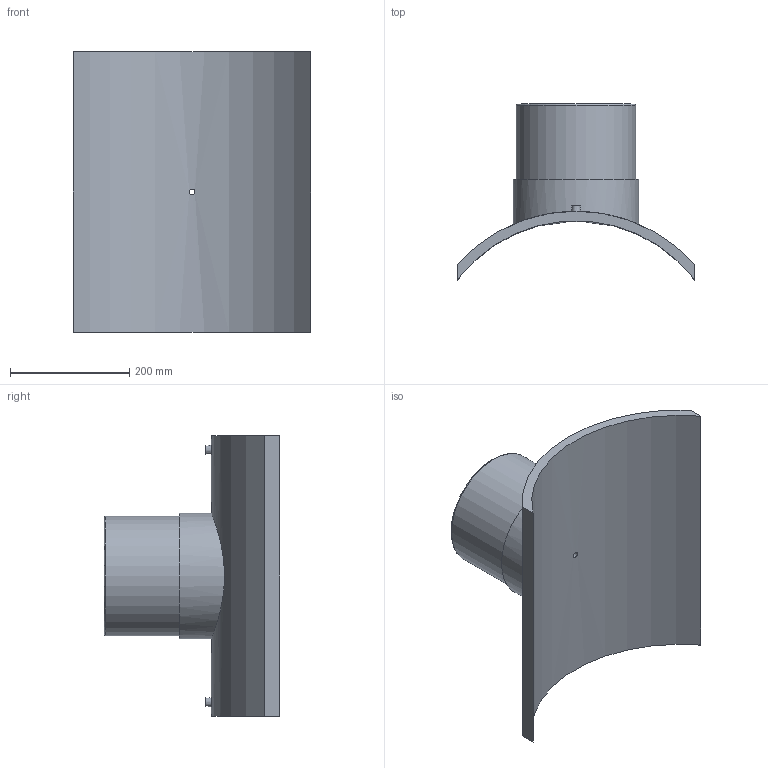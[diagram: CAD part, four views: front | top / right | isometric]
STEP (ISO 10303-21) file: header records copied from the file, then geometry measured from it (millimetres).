
FILE_DESCRIPTION(/* description */ ('PLASSON BRANCH SADDLE 500x200'),/* implementation_level */ '2;1');
FILE_NAME(/* name */ 'C:\Dropbox\KIMPROJECTS-Inventor 2019\99-16-3568-Processing\ElectroFusion Fittings\495803\stp\495803500200T.stp',/* time_stamp */ '2024-04-04T11:51:47+02:00',/* author */ ('KIM'),/* organization */ (''),/* preprocessor_version */ 'ST-DEVELOPER v17.2',/* originating_system */ 'Autodesk Inventor 2019',/* authorisation */ '');
FILE_SCHEMA (('AUTOMOTIVE_DESIGN { 1 0 10303 214 3 1 1 }'));
Length unit declared in the file: millimetre
Products named in the file (1): 495803500200T
Bounding box: 398 x 294.68 x 470 mm (x, y, z)
Volume: 5761236.3 mm3; surface area: 689182.2 mm2
Topology: 1 solids, 1 shells, 29 faces, 60 edges, 43 vertices
Faces by surface type: plane 13, cylinder 12, torus 2, cone 2
Full cylindrical faces by diameter (mm): 4 x2, 9.6 x1, 10 x2, 16 x1, 160 x1, 200 x1, 210 x1
Entity records: 1086 total; most frequent: CARTESIAN_POINT 400, DIRECTION 139, ORIENTED_EDGE 120, EDGE_CURVE 60, AXIS2_PLACEMENT_3D 60, VERTEX_POINT 43, EDGE_LOOP 41, CIRCLE 30
